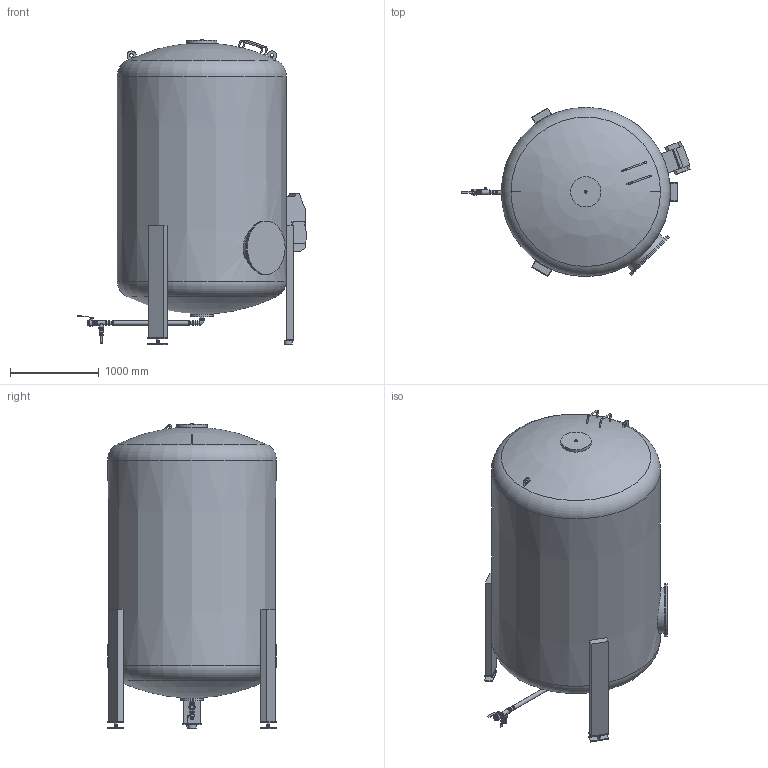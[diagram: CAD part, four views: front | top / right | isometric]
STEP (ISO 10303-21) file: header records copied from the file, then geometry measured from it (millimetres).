
FILE_DESCRIPTION(/* description */ (''),/* implementation_level */ '2;1');
FILE_NAME(/* name */ '\\dataserver\data\Flamco\3D-Modellen\Inventor\Flamcomat\2021_Flamcomat MK-U G4\flamcomat_mk-u_g4_8000_3.stp',/* time_stamp */ '2021-12-15T09:21:53+01:00',/* author */ ('kasius'),/* organization */ (''),/* preprocessor_version */ 'ST-DEVELOPER v17',/* originating_system */ 'Autodesk Inventor 2018',/* authorisation */ '');
FILE_SCHEMA (('AUTOMOTIVE_DESIGN { 1 0 10303 214 3 1 1 }'));
Length unit declared in the file: millimetre
Products named in the file (1): flamcomat_mk-u_g4_8000_3
Bounding box: 2572.96 x 1900.01 x 3430.41 mm (x, y, z)
Volume: 8033834202.8 mm3; surface area: 24551246.2 mm2
Topology: 8 solids, 8 shells, 329 faces, 877 edges, 614 vertices
Faces by surface type: plane 161, cylinder 85, cone 55, torus 24, sphere 2, bspline 2
Full cylindrical faces by diameter (mm): 9.5 x1, 12 x2, 16 x6, 18.3 x1, 18.331 x1, 20 x4, 21.939 x1, 25.4 x1, 26 x1, 28 x2, 30 x1, 30.289 x1, 32.99 x1, 34.594 x2, 36.906 x2, 37.998 x1, 38 x2, 40 x1, 40.768 x2, 41.7 x2, 43 x2, 44.85 x1, 44.999 x1, 45.999 x1, 46.1 x1, 46.845 x1, 47 x3, 48 x2, 48.008 x1, 48.3 x1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
Entity records: 11124 total; most frequent: CARTESIAN_POINT 2241, DIRECTION 1940, ORIENTED_EDGE 1756, EDGE_CURVE 878, AXIS2_PLACEMENT_3D 773, VERTEX_POINT 616, CIRCLE 445, LINE 394
